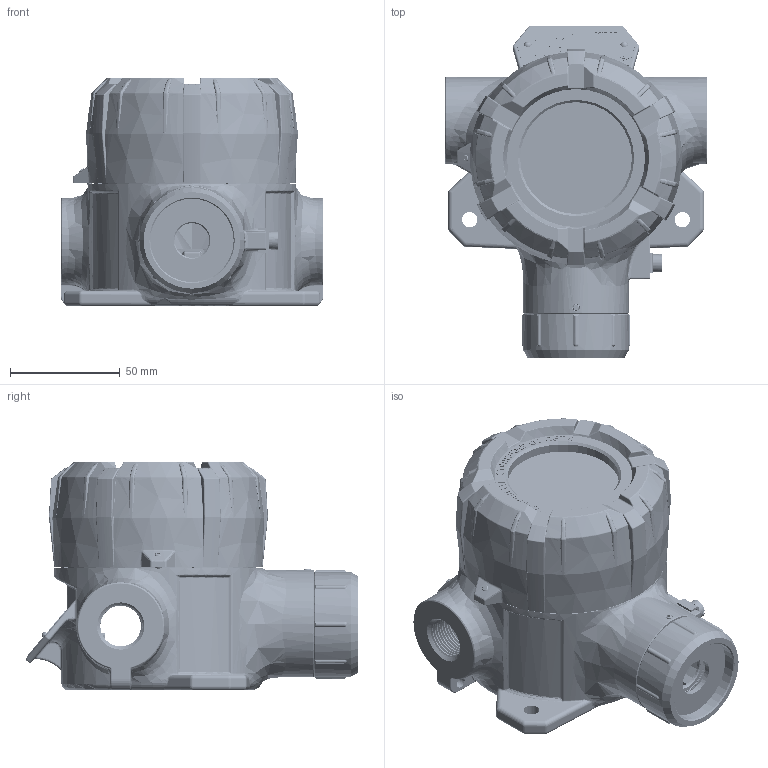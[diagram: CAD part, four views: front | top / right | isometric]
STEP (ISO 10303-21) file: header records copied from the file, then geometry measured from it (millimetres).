
FILE_DESCRIPTION (( 'STEP AP203' ), '1' );
FILE_NAME ('獲鍎 捘 (蜬摳謶譖).STEP', '2023-03-20T14:09:20', ( '' ), ( '' ), 'SwSTEP 2.0', 'SolidWorks 2021', '' );
FILE_SCHEMA (( 'CONFIG_CONTROL_DESIGN' ));
Length unit declared in the file: millimetre
Products named in the file (12): 妈眚 篑蜞眍忸黜 M3x8; Êðûøêà êîðïóñà; Äåðæàòåëü ñåíñîðà â ñáîðå v.160; wkret ETN-4; Äåðæàòåëü ñåíñîðà v.160; Øèëüä ñ íàäïèñÿìè Atom; 鎗鵻罻 v.160; Çàêëåïêà ñòàëüíàÿ ÃÎÑÒ 10299-80; podkl. M5; Îñíîâàíèå êîðïóñà; U-shaped M4(4); 獲鍎 捘 (蜬摳謶譖)
Assembly tree (14 placements, depth 3):
  獲鍎 捘 (蜬摳謶譖)
    Îñíîâàíèå êîðïóñà
    Êðûøêà êîðïóñà
    U-shaped M4(4)  x2
    Äåðæàòåëü ñåíñîðà â ñáîðå v.160
      Äåðæàòåëü ñåíñîðà v.160
    Çàêëåïêà ñòàëüíàÿ ÃÎÑÒ 10299-80  x2
    wkret ETN-4
    podkl. M5
    鎗鵻罻 v.160
    妈眚 篑蜞眍忸黜 M3x8  x2
    Øèëüä ñ íàäïèñÿìè Atom
Bounding box: 120 x 151.52 x 104.2 mm (x, y, z)
Volume: 436575.5 mm3; surface area: 158653.4 mm2
Topology: 40 solids, 40 shells, 5414 faces, 13867 edges, 8744 vertices
Faces by surface type: plane 2295, bspline 1912, cylinder 627, cone 220, torus 211, sphere 149
Entity records: 266742 total; most frequent: CARTESIAN_POINT 150851, ORIENTED_EDGE 27316, DIRECTION 17960, EDGE_CURVE 13658, VERTEX_POINT 8687, LINE 7006, VECTOR 7006, EDGE_LOOP 5777
